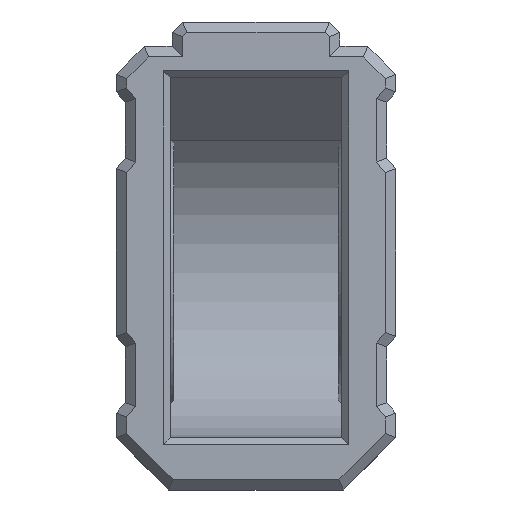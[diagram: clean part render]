
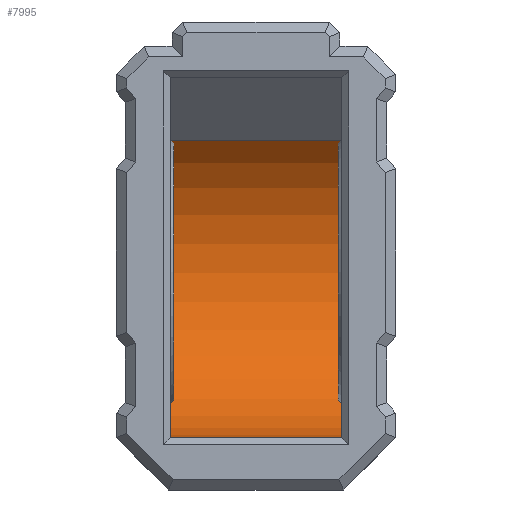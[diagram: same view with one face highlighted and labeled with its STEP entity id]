
A CAD part, front view. The second image highlights one B-rep face of the part: STEP entity #7995.
In plain terms, the highlighted cylindrical face has radius 9.9 mm (diameter 19.8 mm), a partial arc.
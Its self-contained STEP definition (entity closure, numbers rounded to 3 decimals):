
#19=CYLINDRICAL_SURFACE('',#8478,9.9);
#73=CIRCLE('',#8479,9.9);
#74=CIRCLE('',#8480,9.9);
#561=FACE_OUTER_BOUND('',#1050,.T.);
#1050=EDGE_LOOP('',(#5930,#5931,#5932,#5933));
#1713=LINE('',#12052,#2617);
#1714=LINE('',#12056,#2618);
#2617=VECTOR('',#9212,1000.);
#2618=VECTOR('',#9215,1000.);
#3786=VERTEX_POINT('',#12050);
#3787=VERTEX_POINT('',#12051);
#3788=VERTEX_POINT('',#12053);
#3789=VERTEX_POINT('',#12055);
#4592=EDGE_CURVE('',#3786,#3787,#1713,.T.);
#4593=EDGE_CURVE('',#3788,#3787,#73,.T.);
#4594=EDGE_CURVE('',#3788,#3789,#1714,.T.);
#4595=EDGE_CURVE('',#3786,#3789,#74,.T.);
#5930=ORIENTED_EDGE('',*,*,#4592,.T.);
#5931=ORIENTED_EDGE('',*,*,#4593,.F.);
#5932=ORIENTED_EDGE('',*,*,#4594,.T.);
#5933=ORIENTED_EDGE('',*,*,#4595,.F.);
#7995=ADVANCED_FACE('',(#561),#19,.F.);
#8478=AXIS2_PLACEMENT_3D('',#12049,#9210,#9211);
#8479=AXIS2_PLACEMENT_3D('',#12054,#9213,#9214);
#8480=AXIS2_PLACEMENT_3D('',#12057,#9216,#9217);
#9210=DIRECTION('center_axis',(1.,0.,0.));
#9211=DIRECTION('ref_axis',(0.,0.,-1.));
#9212=DIRECTION('',(-1.,0.,0.));
#9213=DIRECTION('center_axis',(1.,0.,0.));
#9214=DIRECTION('ref_axis',(0.,0.,-1.));
#9215=DIRECTION('',(1.,0.,0.));
#9216=DIRECTION('center_axis',(-1.,0.,0.));
#9217=DIRECTION('ref_axis',(0.,0.,1.));
#12049=CARTESIAN_POINT('Origin',(-30.273,9.5,-14.47));
#12050=CARTESIAN_POINT('',(12.9,16.399,-7.37));
#12051=CARTESIAN_POINT('',(3.1,16.399,-7.37));
#12052=CARTESIAN_POINT('',(20.946,16.399,-7.37));
#12053=CARTESIAN_POINT('',(3.1,9.5,-24.37));
#12054=CARTESIAN_POINT('Origin',(3.1,9.5,-14.47));
#12055=CARTESIAN_POINT('',(12.9,9.5,-24.37));
#12056=CARTESIAN_POINT('',(-30.273,9.5,-24.37));
#12057=CARTESIAN_POINT('Origin',(12.9,9.5,-14.47));
